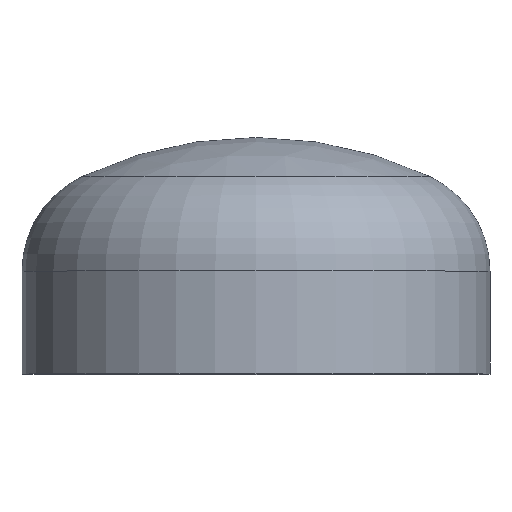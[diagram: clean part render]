
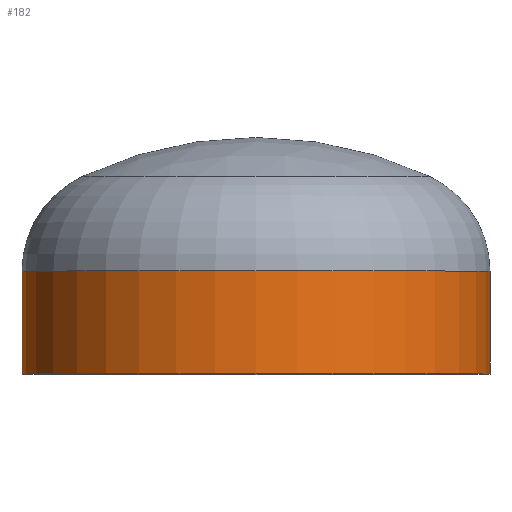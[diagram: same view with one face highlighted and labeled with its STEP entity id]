
A CAD part, top view. The second image highlights one B-rep face of the part: STEP entity #182.
In plain terms, the highlighted cylindrical face has radius 136.5 mm (diameter 273 mm), a partial arc.
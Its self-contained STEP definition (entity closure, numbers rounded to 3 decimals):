
#1 = ORIENTED_EDGE ( 'NONE', *, *, #392, .T. ) ;
#6 = ORIENTED_EDGE ( 'NONE', *, *, #356, .F. ) ;
#13 = VERTEX_POINT ( 'NONE', #247 ) ;
#31 = AXIS2_PLACEMENT_3D ( 'NONE', #234, #253, #202 ) ;
#32 = ORIENTED_EDGE ( 'NONE', *, *, #119, .T. ) ;
#47 = ORIENTED_EDGE ( 'NONE', *, *, #397, .F. ) ;
#79 = VERTEX_POINT ( 'NONE', #369 ) ;
#85 = VERTEX_POINT ( 'NONE', #254 ) ;
#92 = AXIS2_PLACEMENT_3D ( 'NONE', #212, #341, #336 ) ;
#104 = VERTEX_POINT ( 'NONE', #228 ) ;
#119 = EDGE_CURVE ( 'NONE', #85, #13, #143, .T. ) ;
#137 = CARTESIAN_POINT ( 'NONE',  ( 0., 0., 0. ) ) ;
#143 = CIRCLE ( 'NONE', #92, 136.5 ) ;
#147 = CARTESIAN_POINT ( 'NONE',  ( 136.5, 0., 0. ) ) ;
#166 = DIRECTION ( 'NONE',  ( 1., 0., 0. ) ) ;
#169 = DIRECTION ( 'NONE',  ( 0., -1., 0. ) ) ;
#182 = ADVANCED_FACE ( 'NONE', ( #371 ), #249, .T. ) ;
#189 = CARTESIAN_POINT ( 'NONE',  ( -136.5, 0., 0. ) ) ;
#202 = DIRECTION ( 'NONE',  ( 1., 0., 0. ) ) ;
#212 = CARTESIAN_POINT ( 'NONE',  ( 0., 60., 0. ) ) ;
#228 = CARTESIAN_POINT ( 'NONE',  ( -136.5, 0., 0. ) ) ;
#234 = CARTESIAN_POINT ( 'NONE',  ( 0., 0., 0. ) ) ;
#247 = CARTESIAN_POINT ( 'NONE',  ( -136.5, 60., 0. ) ) ;
#249 = CYLINDRICAL_SURFACE ( 'NONE', #31, 136.5 ) ;
#253 = DIRECTION ( 'NONE',  ( 0., -1., 0. ) ) ;
#254 = CARTESIAN_POINT ( 'NONE',  ( 136.5, 60., 0. ) ) ;
#270 = CIRCLE ( 'NONE', #351, 136.5 ) ;
#311 = DIRECTION ( 'NONE',  ( 0., -1., 0. ) ) ;
#334 = VECTOR ( 'NONE', #362, 1000. ) ;
#336 = DIRECTION ( 'NONE',  ( 1., 0., 0. ) ) ;
#341 = DIRECTION ( 'NONE',  ( 0., -1., 0. ) ) ;
#344 = VECTOR ( 'NONE', #169, 1000. ) ;
#351 = AXIS2_PLACEMENT_3D ( 'NONE', #137, #311, #166 ) ;
#356 = EDGE_CURVE ( 'NONE', #85, #79, #398, .T. ) ;
#362 = DIRECTION ( 'NONE',  ( 0., -1., 0. ) ) ;
#369 = CARTESIAN_POINT ( 'NONE',  ( 136.5, 0., 0. ) ) ;
#371 = FACE_OUTER_BOUND ( 'NONE', #403, .T. ) ;
#387 = LINE ( 'NONE', #189, #334 ) ;
#392 = EDGE_CURVE ( 'NONE', #13, #104, #387, .T. ) ;
#397 = EDGE_CURVE ( 'NONE', #79, #104, #270, .T. ) ;
#398 = LINE ( 'NONE', #147, #344 ) ;
#403 = EDGE_LOOP ( 'NONE', ( #32, #1, #47, #6 ) ) ;
